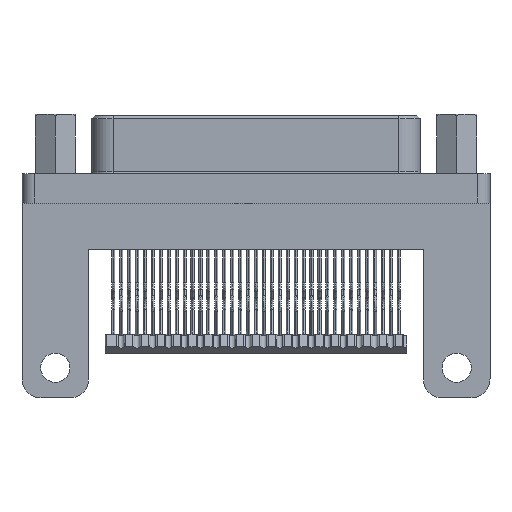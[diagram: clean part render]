
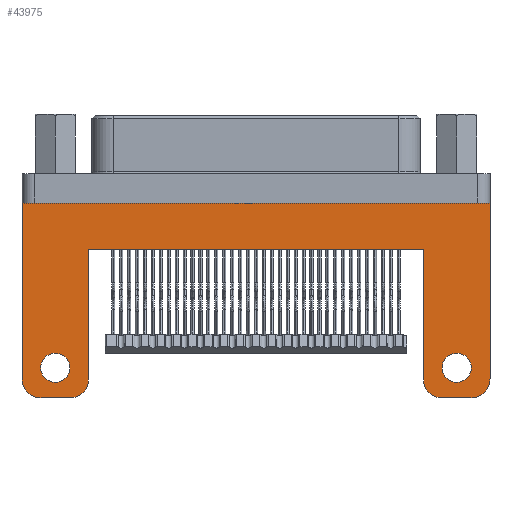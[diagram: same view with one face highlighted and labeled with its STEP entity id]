
A CAD part, front view. The second image highlights one B-rep face of the part: STEP entity #43975.
In plain terms, the highlighted planar face has unit normal (0, -1, 0).
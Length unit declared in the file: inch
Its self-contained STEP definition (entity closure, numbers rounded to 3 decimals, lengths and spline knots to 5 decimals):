
#599 = LINE ( 'NONE', #13785, #42739 ) ;
#701 = DIRECTION ( 'NONE',  ( 0., 0., 1. ) ) ;
#1345 = CARTESIAN_POINT ( 'NONE',  ( 0.6325, -0.17, -0.616 ) ) ;
#2780 = VECTOR ( 'NONE', #21245, 39.37008 ) ;
#4051 = AXIS2_PLACEMENT_3D ( 'NONE', #38154, #76260, #701 ) ;
#4374 = VERTEX_POINT ( 'NONE', #43834 ) ;
#4792 = VERTEX_POINT ( 'NONE', #43728 ) ;
#5183 = EDGE_CURVE ( 'NONE', #20054, #12368, #69416, .T. ) ;
#5341 = CARTESIAN_POINT ( 'NONE',  ( -0.6775, -0.17, -0.605 ) ) ;
#5449 = ORIENTED_EDGE ( 'NONE', *, *, #78379, .F. ) ;
#6094 = AXIS2_PLACEMENT_3D ( 'NONE', #34662, #59971, #80620 ) ;
#6752 = CIRCLE ( 'NONE', #4051, 0.06 ) ;
#7297 = ORIENTED_EDGE ( 'NONE', *, *, #8716, .F. ) ;
#7895 = VERTEX_POINT ( 'NONE', #8584 ) ;
#8075 = EDGE_CURVE ( 'NONE', #16891, #70617, #38173, .T. ) ;
#8584 = CARTESIAN_POINT ( 'NONE',  ( 0.5275, -0.17, -0.605 ) ) ;
#8716 = EDGE_CURVE ( 'NONE', #4374, #70617, #39422, .T. ) ;
#8804 = ORIENTED_EDGE ( 'NONE', *, *, #8075, .T. ) ;
#8990 = EDGE_CURVE ( 'NONE', #7895, #4792, #74494, .T. ) ;
#9566 = DIRECTION ( 'NONE',  ( -1., 0., 0. ) ) ;
#9677 = EDGE_LOOP ( 'NONE', ( #81363, #74383, #40084, #8804, #7297, #15664, #5449, #44898, #39978, #66747, #69852, #62891 ) ) ;
#9855 = CARTESIAN_POINT ( 'NONE',  ( -0.7375, -0.17, -0.051 ) ) ;
#10001 = LINE ( 'NONE', #59977, #53612 ) ;
#11443 = CARTESIAN_POINT ( 'NONE',  ( 0.7375, -0.17, -0.051 ) ) ;
#12098 = CARTESIAN_POINT ( 'NONE',  ( 0.5275, -0.17, -0.665 ) ) ;
#12368 = VERTEX_POINT ( 'NONE', #50590 ) ;
#13785 = CARTESIAN_POINT ( 'NONE',  ( -0.7375, -0.17, -0.665 ) ) ;
#13837 = AXIS2_PLACEMENT_3D ( 'NONE', #17002, #23936, #60388 ) ;
#13850 = DIRECTION ( 'NONE',  ( 0., 1., 0. ) ) ;
#14358 = CARTESIAN_POINT ( 'NONE',  ( 0.6775, -0.17, -0.605 ) ) ;
#15664 = ORIENTED_EDGE ( 'NONE', *, *, #25248, .T. ) ;
#16891 = VERTEX_POINT ( 'NONE', #71570 ) ;
#16945 = AXIS2_PLACEMENT_3D ( 'NONE', #41732, #66194, #48380 ) ;
#17002 = CARTESIAN_POINT ( 'NONE',  ( 0.5875, -0.17, -0.605 ) ) ;
#17443 = AXIS2_PLACEMENT_3D ( 'NONE', #52571, #13850, #21169 ) ;
#18385 = DIRECTION ( 'NONE',  ( 0., 0., 1. ) ) ;
#19044 = EDGE_CURVE ( 'NONE', #40114, #4792, #10001, .T. ) ;
#20054 = VERTEX_POINT ( 'NONE', #45387 ) ;
#20290 = CIRCLE ( 'NONE', #28114, 0.06 ) ;
#21169 = DIRECTION ( 'NONE',  ( 0., 0., 1. ) ) ;
#21201 = DIRECTION ( 'NONE',  ( 0., 1., 0. ) ) ;
#21245 = DIRECTION ( 'NONE',  ( 1., 0., 0. ) ) ;
#22511 = CARTESIAN_POINT ( 'NONE',  ( -0.5275, -0.17, -0.605 ) ) ;
#22758 = LINE ( 'NONE', #12098, #78239 ) ;
#23050 = VERTEX_POINT ( 'NONE', #28980 ) ;
#23258 = ORIENTED_EDGE ( 'NONE', *, *, #63666, .T. ) ;
#23384 = CARTESIAN_POINT ( 'NONE',  ( -0.5875, -0.17, -0.665 ) ) ;
#23936 = DIRECTION ( 'NONE',  ( 0., -1., 0. ) ) ;
#25248 = EDGE_CURVE ( 'NONE', #4374, #80344, #59967, .T. ) ;
#25794 = PLANE ( 'NONE',  #70035 ) ;
#26118 = CARTESIAN_POINT ( 'NONE',  ( 0.7375, -0.17, -1.70531 ) ) ;
#27176 = EDGE_CURVE ( 'NONE', #57494, #16891, #50978, .T. ) ;
#28114 = AXIS2_PLACEMENT_3D ( 'NONE', #14358, #53083, #46055 ) ;
#28980 = CARTESIAN_POINT ( 'NONE',  ( 0.6325, -0.17, -0.524 ) ) ;
#31038 = DIRECTION ( 'NONE',  ( 0., 0., 1. ) ) ;
#32581 = VECTOR ( 'NONE', #64210, 39.37008 ) ;
#32895 = EDGE_CURVE ( 'NONE', #54351, #23050, #41913, .T. ) ;
#34609 = VECTOR ( 'NONE', #18385, 39.37008 ) ;
#34662 = CARTESIAN_POINT ( 'NONE',  ( -0.6325, -0.17, -0.57 ) ) ;
#37084 = ORIENTED_EDGE ( 'NONE', *, *, #76165, .T. ) ;
#37659 = AXIS2_PLACEMENT_3D ( 'NONE', #5341, #61933, #67724 ) ;
#38154 = CARTESIAN_POINT ( 'NONE',  ( -0.5875, -0.17, -0.605 ) ) ;
#38173 = LINE ( 'NONE', #11443, #70585 ) ;
#38177 = FACE_BOUND ( 'NONE', #42082, .T. ) ;
#39422 = LINE ( 'NONE', #51448, #69254 ) ;
#39821 = VERTEX_POINT ( 'NONE', #23384 ) ;
#39978 = ORIENTED_EDGE ( 'NONE', *, *, #67659, .T. ) ;
#40084 = ORIENTED_EDGE ( 'NONE', *, *, #27176, .T. ) ;
#40114 = VERTEX_POINT ( 'NONE', #51875 ) ;
#40192 = DIRECTION ( 'NONE',  ( 0., 0., 1. ) ) ;
#41732 = CARTESIAN_POINT ( 'NONE',  ( 0.6325, -0.17, -0.57 ) ) ;
#41913 = CIRCLE ( 'NONE', #16945, 0.046 ) ;
#42082 = EDGE_LOOP ( 'NONE', ( #59813, #37084 ) ) ;
#42739 = VECTOR ( 'NONE', #57121, 39.37008 ) ;
#43127 = LINE ( 'NONE', #62198, #34609 ) ;
#43699 = EDGE_CURVE ( 'NONE', #68555, #64308, #71313, .T. ) ;
#43728 = CARTESIAN_POINT ( 'NONE',  ( 0.5875, -0.17, -0.665 ) ) ;
#43834 = CARTESIAN_POINT ( 'NONE',  ( -0.7375, -0.17, -0.605 ) ) ;
#43975 = ADVANCED_FACE ( 'NONE', ( #38177, #51048, #75072 ), #25794, .F. ) ;
#44898 = ORIENTED_EDGE ( 'NONE', *, *, #55987, .T. ) ;
#45387 = CARTESIAN_POINT ( 'NONE',  ( -0.6325, -0.17, -0.524 ) ) ;
#46055 = DIRECTION ( 'NONE',  ( 0., 0., 1. ) ) ;
#47665 = ORIENTED_EDGE ( 'NONE', *, *, #32895, .T. ) ;
#47779 = CIRCLE ( 'NONE', #17443, 0.046 ) ;
#48380 = DIRECTION ( 'NONE',  ( 0., 0., 1. ) ) ;
#48646 = CARTESIAN_POINT ( 'NONE',  ( 0.7375, -0.17, -0.605 ) ) ;
#50590 = CARTESIAN_POINT ( 'NONE',  ( -0.6325, -0.17, -0.616 ) ) ;
#50978 = LINE ( 'NONE', #26118, #32581 ) ;
#51048 = FACE_BOUND ( 'NONE', #67014, .T. ) ;
#51114 = AXIS2_PLACEMENT_3D ( 'NONE', #60072, #21201, #77043 ) ;
#51448 = CARTESIAN_POINT ( 'NONE',  ( -0.7375, -0.17, -1.70531 ) ) ;
#51875 = CARTESIAN_POINT ( 'NONE',  ( 0.6775, -0.17, -0.665 ) ) ;
#52379 = CIRCLE ( 'NONE', #51114, 0.046 ) ;
#52571 = CARTESIAN_POINT ( 'NONE',  ( -0.6325, -0.17, -0.57 ) ) ;
#53041 = DIRECTION ( 'NONE',  ( 0., 1., 0. ) ) ;
#53083 = DIRECTION ( 'NONE',  ( 0., -1., 0. ) ) ;
#53612 = VECTOR ( 'NONE', #9566, 39.37008 ) ;
#54351 = VERTEX_POINT ( 'NONE', #1345 ) ;
#55631 = DIRECTION ( 'NONE',  ( -1., 0., 0. ) ) ;
#55987 = EDGE_CURVE ( 'NONE', #39821, #69795, #6752, .T. ) ;
#57121 = DIRECTION ( 'NONE',  ( -1., 0., 0. ) ) ;
#57494 = VERTEX_POINT ( 'NONE', #48646 ) ;
#59813 = ORIENTED_EDGE ( 'NONE', *, *, #5183, .T. ) ;
#59967 = CIRCLE ( 'NONE', #37659, 0.06 ) ;
#59971 = DIRECTION ( 'NONE',  ( 0., 1., 0. ) ) ;
#59977 = CARTESIAN_POINT ( 'NONE',  ( 0.7375, -0.17, -0.665 ) ) ;
#60072 = CARTESIAN_POINT ( 'NONE',  ( 0.6325, -0.17, -0.57 ) ) ;
#60388 = DIRECTION ( 'NONE',  ( 0., 0., 1. ) ) ;
#61933 = DIRECTION ( 'NONE',  ( 0., -1., 0. ) ) ;
#62198 = CARTESIAN_POINT ( 'NONE',  ( -0.5275, -0.17, -0.665 ) ) ;
#62891 = ORIENTED_EDGE ( 'NONE', *, *, #8990, .T. ) ;
#63666 = EDGE_CURVE ( 'NONE', #23050, #54351, #52379, .T. ) ;
#64210 = DIRECTION ( 'NONE',  ( 0., 0., 1. ) ) ;
#64308 = VERTEX_POINT ( 'NONE', #76651 ) ;
#66194 = DIRECTION ( 'NONE',  ( 0., 1., 0. ) ) ;
#66747 = ORIENTED_EDGE ( 'NONE', *, *, #43699, .T. ) ;
#67014 = EDGE_LOOP ( 'NONE', ( #23258, #47665 ) ) ;
#67659 = EDGE_CURVE ( 'NONE', #69795, #68555, #43127, .T. ) ;
#67724 = DIRECTION ( 'NONE',  ( 0., 0., 1. ) ) ;
#68555 = VERTEX_POINT ( 'NONE', #71456 ) ;
#69254 = VECTOR ( 'NONE', #77087, 39.37008 ) ;
#69416 = CIRCLE ( 'NONE', #6094, 0.046 ) ;
#69795 = VERTEX_POINT ( 'NONE', #22511 ) ;
#69852 = ORIENTED_EDGE ( 'NONE', *, *, #77636, .F. ) ;
#70035 = AXIS2_PLACEMENT_3D ( 'NONE', #71695, #53041, #40192 ) ;
#70585 = VECTOR ( 'NONE', #55631, 39.37008 ) ;
#70617 = VERTEX_POINT ( 'NONE', #9855 ) ;
#71313 = LINE ( 'NONE', #71709, #2780 ) ;
#71456 = CARTESIAN_POINT ( 'NONE',  ( -0.5275, -0.17, -0.196 ) ) ;
#71570 = CARTESIAN_POINT ( 'NONE',  ( 0.7375, -0.17, -0.051 ) ) ;
#71695 = CARTESIAN_POINT ( 'NONE',  ( 0.7375, -0.17, -1.70531 ) ) ;
#71709 = CARTESIAN_POINT ( 'NONE',  ( 0.7375, -0.17, -0.196 ) ) ;
#74030 = CARTESIAN_POINT ( 'NONE',  ( -0.6775, -0.17, -0.665 ) ) ;
#74383 = ORIENTED_EDGE ( 'NONE', *, *, #78181, .T. ) ;
#74494 = CIRCLE ( 'NONE', #13837, 0.06 ) ;
#75072 = FACE_OUTER_BOUND ( 'NONE', #9677, .T. ) ;
#76165 = EDGE_CURVE ( 'NONE', #12368, #20054, #47779, .T. ) ;
#76260 = DIRECTION ( 'NONE',  ( 0., -1., 0. ) ) ;
#76651 = CARTESIAN_POINT ( 'NONE',  ( 0.5275, -0.17, -0.196 ) ) ;
#77043 = DIRECTION ( 'NONE',  ( 0., 0., 1. ) ) ;
#77087 = DIRECTION ( 'NONE',  ( 0., 0., 1. ) ) ;
#77636 = EDGE_CURVE ( 'NONE', #7895, #64308, #22758, .T. ) ;
#78181 = EDGE_CURVE ( 'NONE', #40114, #57494, #20290, .T. ) ;
#78239 = VECTOR ( 'NONE', #31038, 39.37008 ) ;
#78379 = EDGE_CURVE ( 'NONE', #39821, #80344, #599, .T. ) ;
#80344 = VERTEX_POINT ( 'NONE', #74030 ) ;
#80620 = DIRECTION ( 'NONE',  ( 0., 0., 1. ) ) ;
#81363 = ORIENTED_EDGE ( 'NONE', *, *, #19044, .F. ) ;
